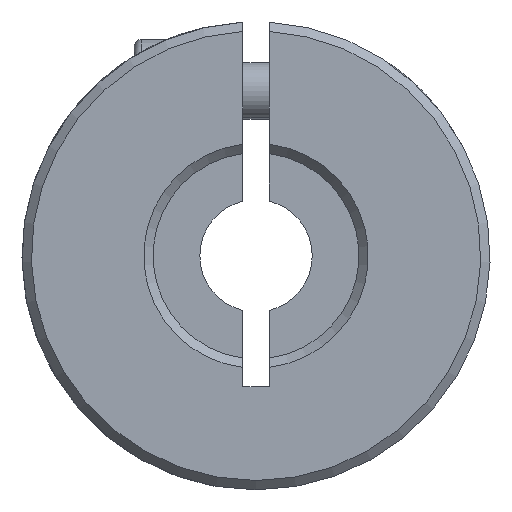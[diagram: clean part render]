
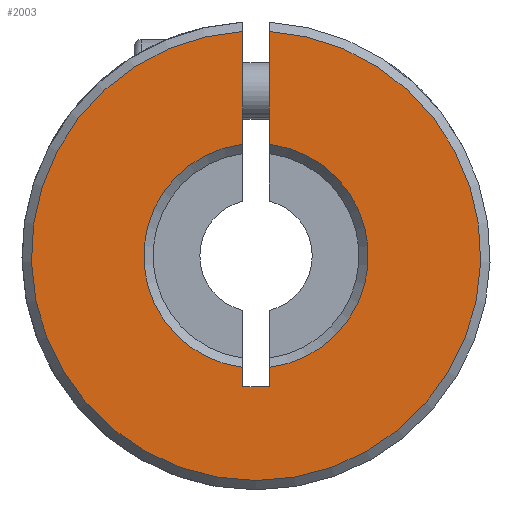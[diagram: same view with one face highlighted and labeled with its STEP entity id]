
A CAD part, front view. The second image highlights one B-rep face of the part: STEP entity #2003.
In plain terms, the highlighted planar face has unit normal (0, -1, 0).
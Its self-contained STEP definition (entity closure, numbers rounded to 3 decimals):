
#71 = EDGE_CURVE ( 'NONE', #4532, #4805, #3922, .T. ) ;
#96 = CIRCLE ( 'NONE', #1404, 12. ) ;
#139 = DIRECTION ( 'NONE',  ( 0., 0., 1. ) ) ;
#150 = DIRECTION ( 'NONE',  ( 0., 1., 0. ) ) ;
#423 = VERTEX_POINT ( 'NONE', #1788 ) ;
#561 = CARTESIAN_POINT ( 'NONE',  ( 0., 0.25, 0. ) ) ;
#655 = DIRECTION ( 'NONE',  ( 0., -1., 0. ) ) ;
#658 = VERTEX_POINT ( 'NONE', #4073 ) ;
#703 = EDGE_CURVE ( 'NONE', #4154, #5060, #4201, .T. ) ;
#735 = CARTESIAN_POINT ( 'NONE',  ( -0.7, 0.25, -5.959 ) ) ;
#744 = ORIENTED_EDGE ( 'NONE', *, *, #71, .T. ) ;
#749 = DIRECTION ( 'NONE',  ( 0., 0., -1. ) ) ;
#924 = CARTESIAN_POINT ( 'NONE',  ( 0.7, 0.25, -7. ) ) ;
#926 = CARTESIAN_POINT ( 'NONE',  ( 0.7, 0.25, 11.98 ) ) ;
#1108 = ORIENTED_EDGE ( 'NONE', *, *, #4556, .F. ) ;
#1130 = AXIS2_PLACEMENT_3D ( 'NONE', #2875, #1178, #4984 ) ;
#1178 = DIRECTION ( 'NONE',  ( 0., 1., 0. ) ) ;
#1215 = VERTEX_POINT ( 'NONE', #926 ) ;
#1338 = LINE ( 'NONE', #2518, #3143 ) ;
#1349 = EDGE_CURVE ( 'NONE', #658, #4805, #5290, .T. ) ;
#1404 = AXIS2_PLACEMENT_3D ( 'NONE', #3543, #655, #2716 ) ;
#1435 = DIRECTION ( 'NONE',  ( 0., 1., 0. ) ) ;
#1481 = DIRECTION ( 'NONE',  ( 0., 0., 1. ) ) ;
#1703 = ORIENTED_EDGE ( 'NONE', *, *, #703, .F. ) ;
#1788 = CARTESIAN_POINT ( 'NONE',  ( -0.7, 0.25, -7. ) ) ;
#1896 = AXIS2_PLACEMENT_3D ( 'NONE', #561, #1435, #1481 ) ;
#2003 = ADVANCED_FACE ( 'NONE', ( #2222 ), #3491, .F. ) ;
#2047 = CARTESIAN_POINT ( 'NONE',  ( -0.7, 0.25, -7. ) ) ;
#2130 = ORIENTED_EDGE ( 'NONE', *, *, #3916, .F. ) ;
#2222 = FACE_OUTER_BOUND ( 'NONE', #5104, .T. ) ;
#2434 = ORIENTED_EDGE ( 'NONE', *, *, #1349, .F. ) ;
#2451 = CARTESIAN_POINT ( 'NONE',  ( 0.7, 0.25, 5.959 ) ) ;
#2518 = CARTESIAN_POINT ( 'NONE',  ( 0.7, 0.25, -7. ) ) ;
#2611 = VERTEX_POINT ( 'NONE', #735 ) ;
#2631 = VECTOR ( 'NONE', #4335, 1000. ) ;
#2716 = DIRECTION ( 'NONE',  ( 0., 0., 1. ) ) ;
#2782 = VECTOR ( 'NONE', #3756, 1000. ) ;
#2800 = CARTESIAN_POINT ( 'NONE',  ( -0.7, 0.25, -7. ) ) ;
#2810 = DIRECTION ( 'NONE',  ( 0., 0., 1. ) ) ;
#2875 = CARTESIAN_POINT ( 'NONE',  ( 0., 0.25, 0. ) ) ;
#2978 = VECTOR ( 'NONE', #2810, 1000. ) ;
#2988 = ORIENTED_EDGE ( 'NONE', *, *, #3208, .T. ) ;
#3068 = LINE ( 'NONE', #924, #2631 ) ;
#3140 = CARTESIAN_POINT ( 'NONE',  ( -0.7, 0.25, 11.98 ) ) ;
#3143 = VECTOR ( 'NONE', #139, 1000. ) ;
#3208 = EDGE_CURVE ( 'NONE', #4154, #1215, #96, .T. ) ;
#3352 = EDGE_CURVE ( 'NONE', #2611, #5060, #3507, .T. ) ;
#3403 = CARTESIAN_POINT ( 'NONE',  ( -0.7, 0.25, 5.959 ) ) ;
#3491 = PLANE ( 'NONE',  #3676 ) ;
#3507 = CIRCLE ( 'NONE', #1130, 6. ) ;
#3543 = CARTESIAN_POINT ( 'NONE',  ( 0., 0.25, 0. ) ) ;
#3609 = VECTOR ( 'NONE', #749, 1000. ) ;
#3676 = AXIS2_PLACEMENT_3D ( 'NONE', #3901, #150, #3816 ) ;
#3756 = DIRECTION ( 'NONE',  ( 0., 0., -1. ) ) ;
#3816 = DIRECTION ( 'NONE',  ( 0., 0., 1. ) ) ;
#3901 = CARTESIAN_POINT ( 'NONE',  ( 12.5, 0.25, -50. ) ) ;
#3916 = EDGE_CURVE ( 'NONE', #4532, #1215, #1338, .T. ) ;
#3922 = CIRCLE ( 'NONE', #1896, 6. ) ;
#3976 = CARTESIAN_POINT ( 'NONE',  ( 0.7, 0.25, -5.959 ) ) ;
#4043 = ORIENTED_EDGE ( 'NONE', *, *, #4378, .F. ) ;
#4073 = CARTESIAN_POINT ( 'NONE',  ( 0.7, 0.25, -7. ) ) ;
#4154 = VERTEX_POINT ( 'NONE', #3140 ) ;
#4201 = LINE ( 'NONE', #2800, #2782 ) ;
#4335 = DIRECTION ( 'NONE',  ( 1., 0., 0. ) ) ;
#4378 = EDGE_CURVE ( 'NONE', #423, #658, #3068, .T. ) ;
#4521 = LINE ( 'NONE', #2047, #3609 ) ;
#4532 = VERTEX_POINT ( 'NONE', #2451 ) ;
#4556 = EDGE_CURVE ( 'NONE', #2611, #423, #4521, .T. ) ;
#4805 = VERTEX_POINT ( 'NONE', #3976 ) ;
#4984 = DIRECTION ( 'NONE',  ( 0., 0., 1. ) ) ;
#5060 = VERTEX_POINT ( 'NONE', #3403 ) ;
#5104 = EDGE_LOOP ( 'NONE', ( #2130, #744, #2434, #4043, #1108, #5131, #1703, #2988 ) ) ;
#5131 = ORIENTED_EDGE ( 'NONE', *, *, #3352, .T. ) ;
#5231 = CARTESIAN_POINT ( 'NONE',  ( 0.7, 0.25, -7. ) ) ;
#5290 = LINE ( 'NONE', #5231, #2978 ) ;
